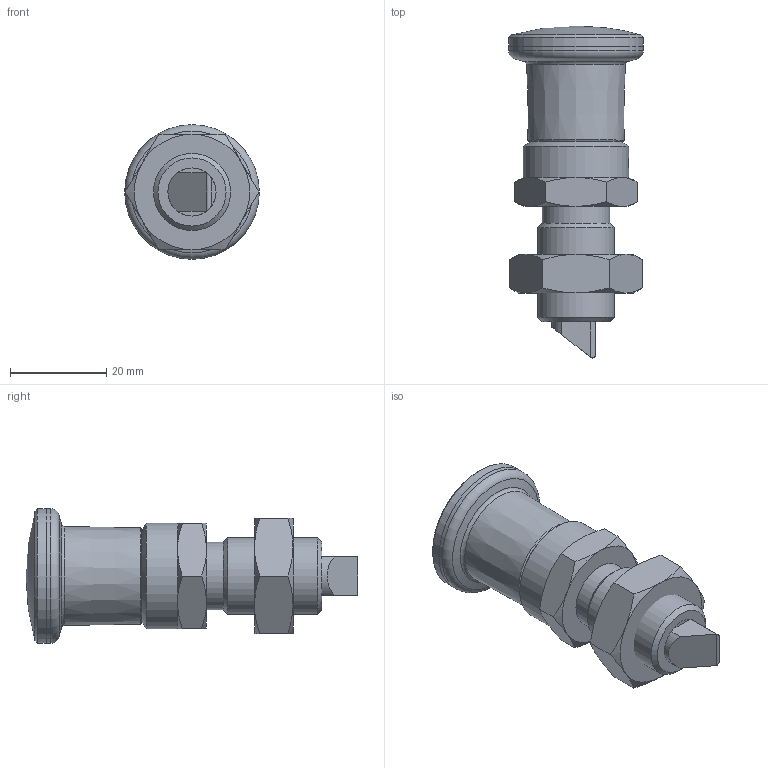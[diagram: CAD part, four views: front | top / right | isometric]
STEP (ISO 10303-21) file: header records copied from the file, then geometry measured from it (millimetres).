
FILE_DESCRIPTION(/* description */ ('STEP AP214'),/* implementation_level */ '2;1');
FILE_NAME(/* name */ 'Indexing Plunger_ Stainless Steel GN 824-8-7_5-CK-NI (deactivated)',/* time_stamp */ '2024-11-28T10:50:01+01:00',/* author */ ('License CC BY-ND 4.0'),/* organization */ ('CADENAS'),/* preprocessor_version */ 'ST-DEVELOPER v19.3',/* originating_system */ 'PARTsolutions',/* authorisation */ ' ');
FILE_SCHEMA (('AUTOMOTIVE_DESIGN {1 0 10303 214 3 1 1}'));
Length unit declared in the file: millimetre
Products named in the file (4): Indexing Plunger, Stainless Steel GN 824-8-7,5-CK-NI (deactivated); Indexing Plunger, Stainless Steel GN 824-8-7,5-CK-NI (closed)-1; Indexing Plunger, Stainless Steel GN 824-8-7,5-CK-NI (closed)-2; Indexing Plunger, Stainless Steel GN 824-8-7,5-CK-NI (closed)-3
Assembly tree (3 placements, depth 2):
  Indexing Plunger, Stainless Steel GN 824-8-7,5-CK-NI (deactivated)
    Indexing Plunger, Stainless Steel GN 824-8-7,5-CK-NI (closed)-1
    Indexing Plunger, Stainless Steel GN 824-8-7,5-CK-NI (closed)-2
    Indexing Plunger, Stainless Steel GN 824-8-7,5-CK-NI (closed)-3
Bounding box: 28 x 69 x 28 mm (x, y, z)
Volume: 20595.8 mm3; surface area: 11887.5 mm2
Topology: 3 solids, 3 shells, 104 faces, 224 edges, 137 vertices
Faces by surface type: plane 48, cone 33, cylinder 19, torus 3, sphere 1
Full cylindrical faces by diameter (mm): 3.3 x1, 7.5 x2, 10 x2, 10.5 x1, 11 x2, 13.835 x1, 14 x1, 16 x1, 22 x1, 27.98 x1, 28 x1
Entity records: 3355 total; most frequent: CARTESIAN_POINT 622, DIRECTION 426, ORIENTED_EDGE 382, EDGE_CURVE 191, AXIS2_PLACEMENT_3D 185, EDGE_LOOP 146, FACE_BOUND 146, VERTEX_POINT 131
